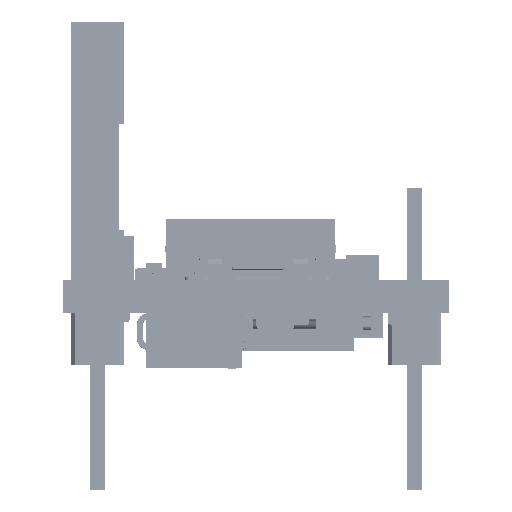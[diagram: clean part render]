
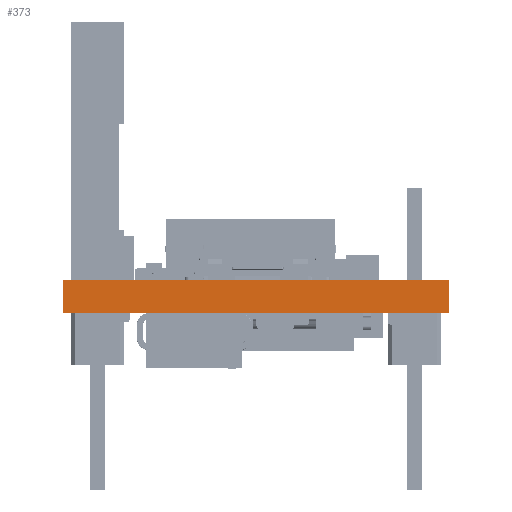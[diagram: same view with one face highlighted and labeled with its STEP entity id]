
A CAD part, front view. The second image highlights one B-rep face of the part: STEP entity #373.
In plain terms, the highlighted planar face has unit normal (0, -1, 0).
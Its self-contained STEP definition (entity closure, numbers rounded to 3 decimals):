
#373 = ADVANCED_FACE('',(#374),#408,.F.);
#374 = FACE_BOUND('',#375,.F.);
#375 = EDGE_LOOP('',(#376,#386,#394,#402));
#376 = ORIENTED_EDGE('',*,*,#377,.T.);
#377 = EDGE_CURVE('',#378,#380,#382,.T.);
#378 = VERTEX_POINT('',#379);
#379 = CARTESIAN_POINT('',(0.,0.,0.));
#380 = VERTEX_POINT('',#381);
#381 = CARTESIAN_POINT('',(0.,0.,1.607));
#382 = LINE('',#383,#384);
#383 = CARTESIAN_POINT('',(0.,0.,0.));
#384 = VECTOR('',#385,1.);
#385 = DIRECTION('',(0.,0.,1.));
#386 = ORIENTED_EDGE('',*,*,#387,.T.);
#387 = EDGE_CURVE('',#380,#388,#390,.T.);
#388 = VERTEX_POINT('',#389);
#389 = CARTESIAN_POINT('',(18.542,0.,1.607));
#390 = LINE('',#391,#392);
#391 = CARTESIAN_POINT('',(0.,0.,1.607));
#392 = VECTOR('',#393,1.);
#393 = DIRECTION('',(1.,0.,0.));
#394 = ORIENTED_EDGE('',*,*,#395,.F.);
#395 = EDGE_CURVE('',#396,#388,#398,.T.);
#396 = VERTEX_POINT('',#397);
#397 = CARTESIAN_POINT('',(18.542,0.,0.));
#398 = LINE('',#399,#400);
#399 = CARTESIAN_POINT('',(18.542,0.,0.));
#400 = VECTOR('',#401,1.);
#401 = DIRECTION('',(0.,0.,1.));
#402 = ORIENTED_EDGE('',*,*,#403,.F.);
#403 = EDGE_CURVE('',#378,#396,#404,.T.);
#404 = LINE('',#405,#406);
#405 = CARTESIAN_POINT('',(0.,0.,0.));
#406 = VECTOR('',#407,1.);
#407 = DIRECTION('',(1.,0.,0.));
#408 = PLANE('',#409);
#409 = AXIS2_PLACEMENT_3D('',#410,#411,#412);
#410 = CARTESIAN_POINT('',(0.,0.,0.));
#411 = DIRECTION('',(0.,1.,0.));
#412 = DIRECTION('',(1.,0.,0.));
